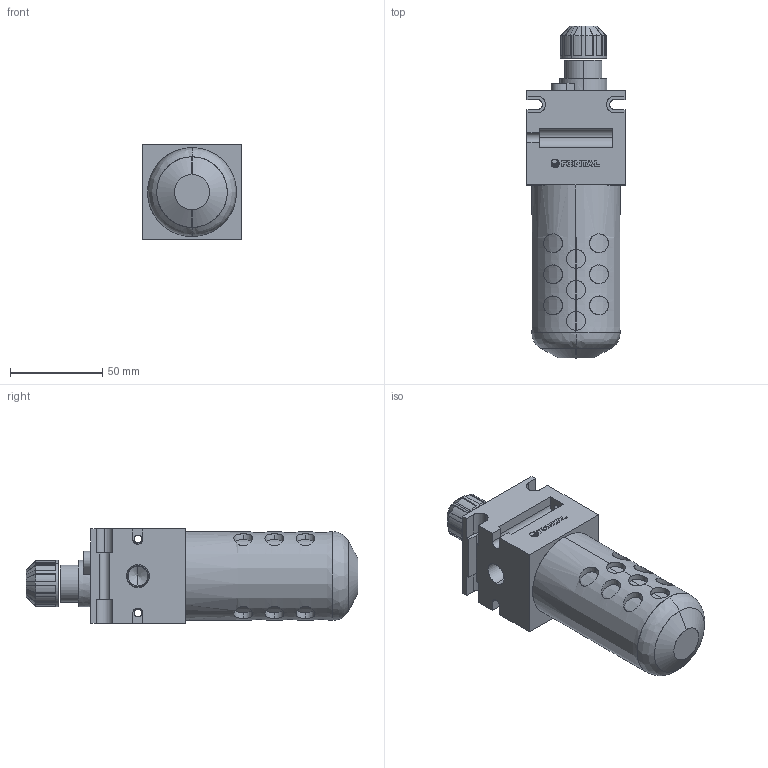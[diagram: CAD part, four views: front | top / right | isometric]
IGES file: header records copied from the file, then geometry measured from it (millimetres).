
Start section: SolidWorks IGES file using analytic representation for surfaces
Global section: file name: D:\Custom\3D繪製\調質機器\空氣給油氣\L55-02#.IGS; native system: SolidWorks 2014; preprocessor: SolidWorks 2014; author: Chieh_Lu; date: 160115.025622; units: millimetre
Bounding box: 53 x 179.5 x 51.12 mm (x, y, z)
Surface area: 44685.1 mm2 (no closed solid volume)
Topology: 0 solids, 0 shells, 350 faces, 5384 edges, 5380 vertices
Faces by surface type: bspline 201, revolution 149
